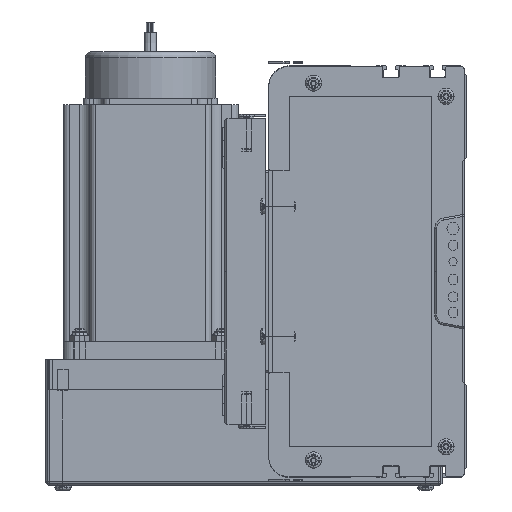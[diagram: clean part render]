
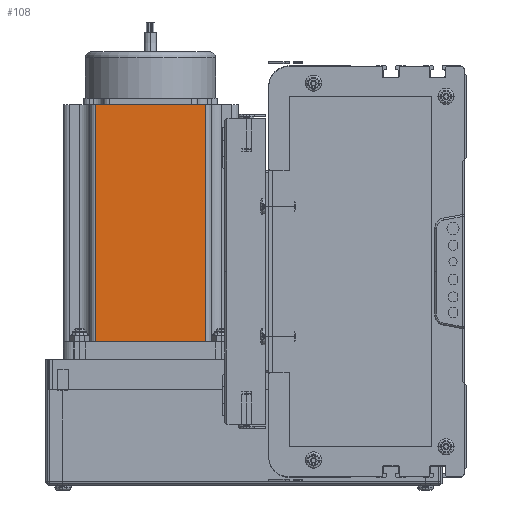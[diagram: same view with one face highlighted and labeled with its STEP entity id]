
A CAD part, left-side view. The second image highlights one B-rep face of the part: STEP entity #108.
In plain terms, the highlighted planar face has unit normal (-1, 0, 0) as drawn and (0, -1, 0) by its records, which use the part's own axes.
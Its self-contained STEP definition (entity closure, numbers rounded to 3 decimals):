
#30 = ORIENTED_EDGE ( 'NONE', *, *, #181, .F. ) ;
#33 = VERTEX_POINT ( 'NONE', #12008 ) ;
#108 = ADVANCED_FACE ( 'NONE', ( #15556 ), #15567, .F. ) ;
#109 = ORIENTED_EDGE ( 'NONE', *, *, #113, .T. ) ;
#113 = EDGE_CURVE ( 'NONE', #412, #33, #15538, .T. ) ;
#164 = VERTEX_POINT ( 'NONE', #24348 ) ;
#181 = EDGE_CURVE ( 'NONE', #414, #33, #24718, .T. ) ;
#189 = EDGE_CURVE ( 'NONE', #414, #164, #24964, .T. ) ;
#211 = EDGE_CURVE ( 'NONE', #164, #412, #24704, .T. ) ;
#403 = ORIENTED_EDGE ( 'NONE', *, *, #211, .T. ) ;
#412 = VERTEX_POINT ( 'NONE', #59903 ) ;
#414 = VERTEX_POINT ( 'NONE', #59899 ) ;
#416 = ORIENTED_EDGE ( 'NONE', *, *, #189, .T. ) ;
#453 = EDGE_LOOP ( 'NONE', ( #403, #109, #30, #416 ) ) ;
#12008 = CARTESIAN_POINT ( 'NONE',  ( 69.74, 0., 116.5 ) ) ;
#15498 = DIRECTION ( 'NONE',  ( 0., 1., 0. ) ) ;
#15514 = AXIS2_PLACEMENT_3D ( 'NONE', #15560, #15498, #15542 ) ;
#15533 = DIRECTION ( 'NONE',  ( 0., 0., 1. ) ) ;
#15535 = VECTOR ( 'NONE', #15533, 1000. ) ;
#15536 = CARTESIAN_POINT ( 'NONE',  ( 69.74, 0., 116.5 ) ) ;
#15538 = LINE ( 'NONE', #15536, #15535 ) ;
#15542 = DIRECTION ( 'NONE',  ( 0., 0., 1. ) ) ;
#15556 = FACE_OUTER_BOUND ( 'NONE', #453, .T. ) ;
#15560 = CARTESIAN_POINT ( 'NONE',  ( 0., 0., 116.5 ) ) ;
#15567 = PLANE ( 'NONE',  #15514 ) ;
#24348 = CARTESIAN_POINT ( 'NONE',  ( 16.16, 0., 0. ) ) ;
#24368 = DIRECTION ( 'NONE',  ( 1., 0., 0. ) ) ;
#24370 = VECTOR ( 'NONE', #24368, 1000. ) ;
#24530 = DIRECTION ( 'NONE',  ( 0., 0., -1. ) ) ;
#24533 = VECTOR ( 'NONE', #24530, 1000. ) ;
#24535 = CARTESIAN_POINT ( 'NONE',  ( 16.16, 0., 116.5 ) ) ;
#24688 = DIRECTION ( 'NONE',  ( 1., 0., 0. ) ) ;
#24691 = VECTOR ( 'NONE', #24688, 1000. ) ;
#24694 = CARTESIAN_POINT ( 'NONE',  ( 0., 0., 0. ) ) ;
#24704 = LINE ( 'NONE', #24694, #24691 ) ;
#24716 = CARTESIAN_POINT ( 'NONE',  ( 0., 0., 116.5 ) ) ;
#24718 = LINE ( 'NONE', #24716, #24370 ) ;
#24964 = LINE ( 'NONE', #24535, #24533 ) ;
#59899 = CARTESIAN_POINT ( 'NONE',  ( 16.16, 0., 116.5 ) ) ;
#59903 = CARTESIAN_POINT ( 'NONE',  ( 69.74, 0., 0. ) ) ;
